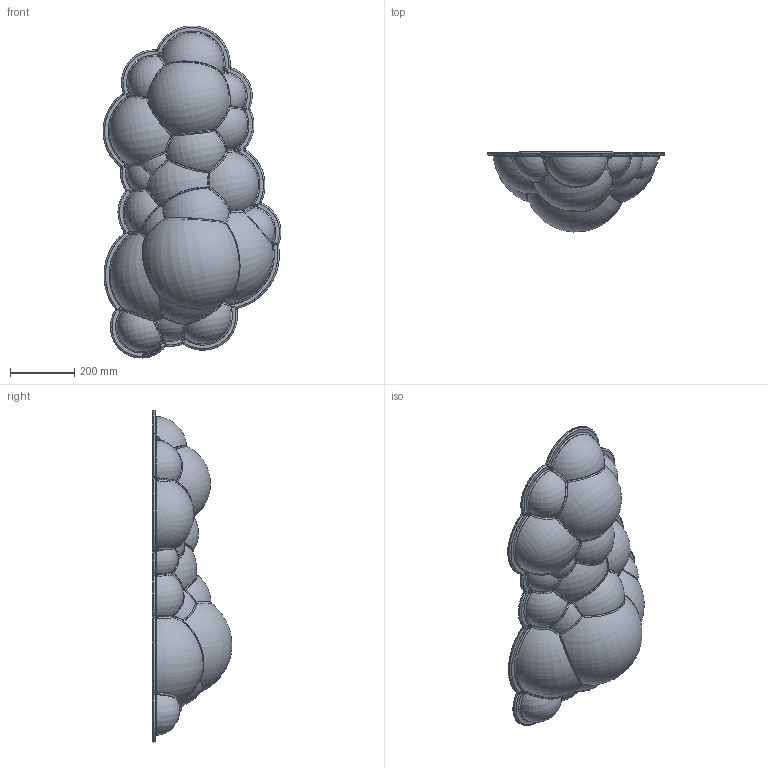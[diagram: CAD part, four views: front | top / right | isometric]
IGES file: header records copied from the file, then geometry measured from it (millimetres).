
Start section: SolidWorks IGES file using analytic representation for surfaces
Global section: file name: N:\- Ingeneria\DISEGNI\PRODOTTI\NUVOLA\MINOR\PARETE MINOR\800NUMLWW311_ASSIEME NUVOLA MINOR PARETE ALTA ALTA H25 45W.IGS; native system: SolidWorks 2016; preprocessor: SolidWorks 2016; author: BenedettoLiVolsi; date: 230120.103907; units: millimetre
Bounding box: 553.23 x 247.91 x 1032.72 mm (x, y, z)
Surface area: 2083423.8 mm2 (no closed solid volume)
Topology: 0 solids, 0 shells, 1837 faces, 23223 edges, 23181 vertices
Faces by surface type: bspline 1170, revolution 667
